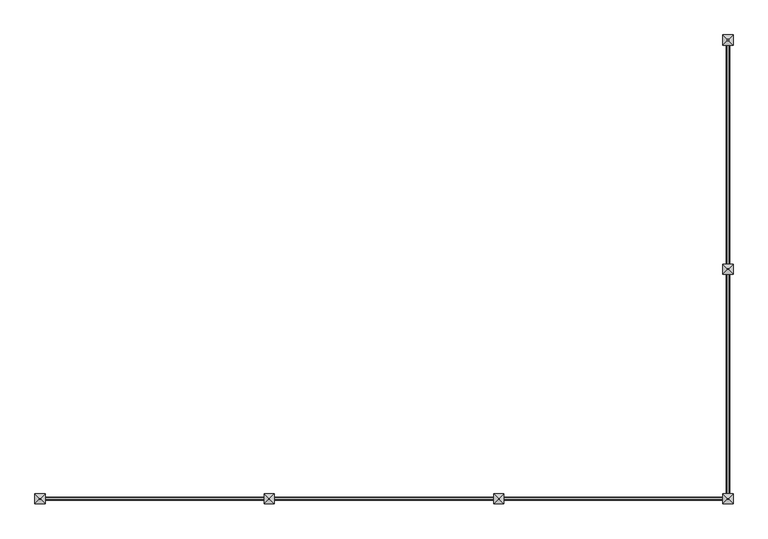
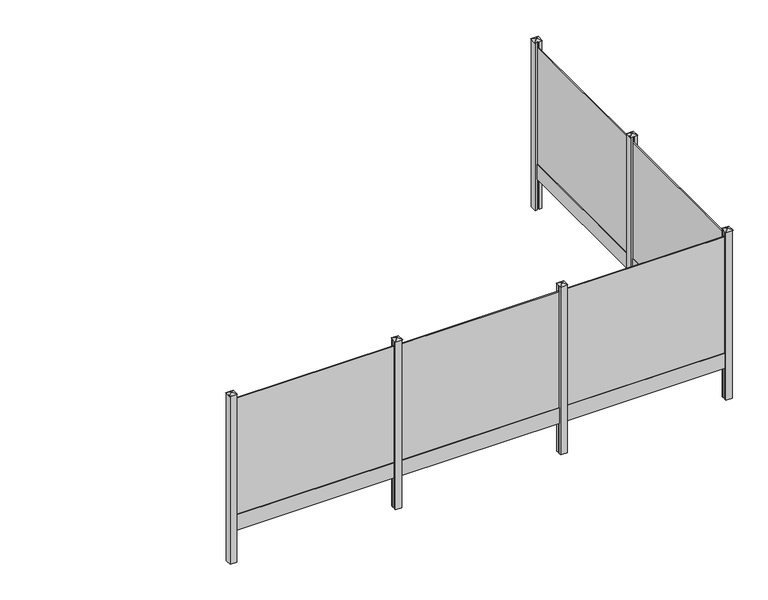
"""IFC4 building model written with IfcOpenShell, lengths in millimetres: railing geometry, Mehat - Railing - Plaque de Soubassement - Ardoise pour clôture rigide - 251x25x3.5 cm."""

from ifc_helpers import new_model, si_unit, frame, origin, origin_with_axes, place, context, project, spatial, polyline, outline, extrude, faceted_brep, source, transform, mapped, element, save


def railing_7dd5a5e9(model_context):
    return source(origin(), model_context, "Body", "SolidModel", [
        extrude(outline(polyline([(-14163.7483484, -20957.4943936), (-14180.7483484, -20957.4943936), (-14180.7483484, -18447.4943936), (-14163.7483484, -18447.4943936), (-14163.7483484, -20957.4943936)])), frame((0.0, 0.0, 250.0), z_axis=(0.0, 0.0, 1.0), x_axis=(1.0, 0.0, 0.0)), (0.0, 0.0, 1.0), 1900.0),
        extrude(outline(polyline([(-14154.7483484, -20957.4943936), (-14189.7483484, -20957.4943936), (-14189.7483484, -18447.4943936), (-14154.7483484, -18447.4943936), (-14154.7483484, -20957.4943936)])), origin_with_axes(), (0.0, 0.0, 1.0), 250.0),
        extrude(outline(polyline([(-14122.2483484, -21032.4943936), (-14154.7483484, -21032.4943936), (-14154.7483484, -21007.4943936), (-14189.7483484, -21007.4943936), (-14189.7483484, -21032.4943936), (-14222.2483484, -21032.4943936), (-14222.2483484, -20932.4943936), (-14189.7483484, -20932.4943936), (-14189.7483484, -20957.4943936), (-14154.7483484, -20957.4943936), (-14154.7483484, -20932.4943936), (-14122.2483484, -20932.4943936), (-14122.2483484, -21032.4943936)])), frame((0.0, 0.0, -500.0), z_axis=(0.0, 0.0, 1.0), x_axis=(1.0, 0.0, 0.0)), (0.0, 0.0, 1.0), 2750.0),
        faceted_brep([(-14178.6528945, -20976.1443936, 2275.4), (-14178.6528945, -20988.8443936, 2275.4), (-14165.9528945, -20988.8443936, 2275.4), (-14165.9528945, -20976.1443936, 2275.4), (-14228.5983484, -20926.1443936, 2250.0), (-14115.8983484, -20926.1443936, 2250.0), (-14115.8983484, -21038.8443936, 2250.0), (-14228.5983484, -21038.8443936, 2250.0)], [[[0, 1, 2, 3]], [[4, 5, 6, 7]], [[4, 0, 3, 5]], [[5, 3, 2, 6]], [[6, 2, 1, 7]], [[7, 1, 0, 4]]]),
        extrude(outline(polyline([(-14163.7483484, -23517.4943936), (-14180.7483484, -23517.4943936), (-14180.7483484, -21007.4943936), (-14163.7483484, -21007.4943936), (-14163.7483484, -23517.4943936)])), frame((0.0, 0.0, 250.0), z_axis=(0.0, 0.0, 1.0), x_axis=(1.0, 0.0, 0.0)), (0.0, 0.0, 1.0), 1900.0),
        extrude(outline(polyline([(-14154.7483484, -23517.4943936), (-14189.7483484, -23517.4943936), (-14189.7483484, -21007.4943936), (-14154.7483484, -21007.4943936), (-14154.7483484, -23517.4943936)])), origin_with_axes(), (0.0, 0.0, 1.0), 250.0),
        extrude(outline(polyline([(-16707.2483484, -23550.9943936), (-16707.2483484, -23533.9943936), (-14197.2483484, -23533.9943936), (-14197.2483484, -23550.9943936), (-16707.2483484, -23550.9943936)])), frame((0.0, 0.0, 250.0), z_axis=(0.0, 0.0, 1.0), x_axis=(1.0, 0.0, 0.0)), (0.0, 0.0, 1.0), 1900.0),
        extrude(outline(polyline([(-16707.2483484, -23559.9943936), (-16707.2483484, -23524.9943936), (-14197.2483484, -23524.9943936), (-14197.2483484, -23559.9943936), (-16707.2483484, -23559.9943936)])), origin_with_axes(), (0.0, 0.0, 1.0), 250.0),
        extrude(outline(polyline([(-16782.2483484, -23592.4943936), (-16782.2483484, -23559.9943936), (-16757.2483484, -23559.9943936), (-16757.2483484, -23524.9943936), (-16782.2483484, -23524.9943936), (-16782.2483484, -23492.4943936), (-16682.2483484, -23492.4943936), (-16682.2483484, -23524.9943936), (-16707.2483484, -23524.9943936), (-16707.2483484, -23559.9943936), (-16682.2483484, -23559.9943936), (-16682.2483484, -23592.4943936), (-16782.2483484, -23592.4943936)])), frame((0.0, 0.0, -500.0), z_axis=(0.0, 0.0, 1.0), x_axis=(1.0, 0.0, 0.0)), (0.0, 0.0, 1.0), 2750.0),
        faceted_brep([(-16725.8983484, -23536.0898475, 2275.4), (-16738.5983484, -23536.0898475, 2275.4), (-16738.5983484, -23548.7898475, 2275.4), (-16725.8983484, -23548.7898475, 2275.4), (-16675.8983484, -23486.1443936, 2250.0), (-16675.8983484, -23598.8443936, 2250.0), (-16788.5983484, -23598.8443936, 2250.0), (-16788.5983484, -23486.1443936, 2250.0)], [[[0, 1, 2, 3]], [[4, 5, 6, 7]], [[4, 0, 3, 5]], [[5, 3, 2, 6]], [[6, 2, 1, 7]], [[7, 1, 0, 4]]]),
        extrude(outline(polyline([(-19267.2483484, -23550.9943936), (-19267.2483484, -23533.9943936), (-16757.2483484, -23533.9943936), (-16757.2483484, -23550.9943936), (-19267.2483484, -23550.9943936)])), frame((0.0, 0.0, 250.0), z_axis=(0.0, 0.0, 1.0), x_axis=(1.0, 0.0, 0.0)), (0.0, 0.0, 1.0), 1900.0),
        extrude(outline(polyline([(-19267.2483484, -23559.9943936), (-19267.2483484, -23524.9943936), (-16757.2483484, -23524.9943936), (-16757.2483484, -23559.9943936), (-19267.2483484, -23559.9943936)])), origin_with_axes(), (0.0, 0.0, 1.0), 250.0),
        extrude(outline(polyline([(-19342.2483484, -23592.4943936), (-19342.2483484, -23559.9943936), (-19317.2483484, -23559.9943936), (-19317.2483484, -23524.9943936), (-19342.2483484, -23524.9943936), (-19342.2483484, -23492.4943936), (-19242.2483484, -23492.4943936), (-19242.2483484, -23524.9943936), (-19267.2483484, -23524.9943936), (-19267.2483484, -23559.9943936), (-19242.2483484, -23559.9943936), (-19242.2483484, -23592.4943936), (-19342.2483484, -23592.4943936)])), frame((0.0, 0.0, -500.0), z_axis=(0.0, 0.0, 1.0), x_axis=(1.0, 0.0, 0.0)), (0.0, 0.0, 1.0), 2750.0),
        faceted_brep([(-19285.8983484, -23536.0898475, 2275.4), (-19298.5983484, -23536.0898475, 2275.4), (-19298.5983484, -23548.7898475, 2275.4), (-19285.8983484, -23548.7898475, 2275.4), (-19235.8983484, -23486.1443936, 2250.0), (-19235.8983484, -23598.8443936, 2250.0), (-19348.5983484, -23598.8443936, 2250.0), (-19348.5983484, -23486.1443936, 2250.0)], [[[0, 1, 2, 3]], [[4, 5, 6, 7]], [[4, 0, 3, 5]], [[5, 3, 2, 6]], [[6, 2, 1, 7]], [[7, 1, 0, 4]]]),
        extrude(outline(polyline([(-21827.2483484, -23550.9943936), (-21827.2483484, -23533.9943936), (-19317.2483484, -23533.9943936), (-19317.2483484, -23550.9943936), (-21827.2483484, -23550.9943936)])), frame((0.0, 0.0, 250.0), z_axis=(0.0, 0.0, 1.0), x_axis=(1.0, 0.0, 0.0)), (0.0, 0.0, 1.0), 1900.0),
        extrude(outline(polyline([(-21827.2483484, -23559.9943936), (-21827.2483484, -23524.9943936), (-19317.2483484, -23524.9943936), (-19317.2483484, -23559.9943936), (-21827.2483484, -23559.9943936)])), origin_with_axes(), (0.0, 0.0, 1.0), 250.0),
        extrude(outline(polyline([(-14222.2483484, -23592.4943936), (-14222.2483484, -23559.9943936), (-14197.2483484, -23559.9943936), (-14197.2483484, -23524.9943936), (-14222.2483484, -23524.9943936), (-14222.2483484, -23492.4943936), (-14189.7483484, -23492.4943936), (-14189.7483484, -23517.4943936), (-14154.7483484, -23517.4943936), (-14154.7483484, -23492.4943936), (-14122.2483484, -23492.4943936), (-14122.2483484, -23592.4943936), (-14222.2483484, -23592.4943936)])), frame((0.0, 0.0, -500.0), z_axis=(0.0, 0.0, 1.0), x_axis=(1.0, 0.0, 0.0)), (0.0, 0.0, 1.0), 2750.0),
        faceted_brep([(-14165.8983484, -23536.0898475, 2275.4), (-14178.5983484, -23536.0898475, 2275.4), (-14178.5983484, -23548.7898475, 2275.4), (-14165.8983484, -23548.7898475, 2275.4), (-14115.8983484, -23486.1443936, 2250.0), (-14115.8983484, -23598.8443936, 2250.0), (-14228.5983484, -23598.8443936, 2250.0), (-14228.5983484, -23486.1443936, 2250.0)], [[[0, 1, 2, 3]], [[4, 5, 6, 7]], [[4, 0, 3, 5]], [[5, 3, 2, 6]], [[6, 2, 1, 7]], [[7, 1, 0, 4]]]),
        extrude(outline(polyline([(-14122.2483484, -18472.4943936), (-14154.7483484, -18472.4943936), (-14154.7483484, -18447.4943936), (-14189.7483484, -18447.4943936), (-14189.7483484, -18472.4943936), (-14222.2483484, -18472.4943936), (-14222.2483484, -18372.4943936), (-14122.2483484, -18372.4943936), (-14122.2483484, -18472.4943936)])), frame((0.0, 0.0, -500.0), z_axis=(0.0, 0.0, 1.0), x_axis=(1.0, 0.0, 0.0)), (0.0, 0.0, 1.0), 2750.0),
        faceted_brep([(-14178.6528945, -18416.1443936, 2275.4), (-14178.6528945, -18428.8443936, 2275.4), (-14165.9528945, -18428.8443936, 2275.4), (-14165.9528945, -18416.1443936, 2275.4), (-14228.5983484, -18366.1443936, 2250.0), (-14115.8983484, -18366.1443936, 2250.0), (-14115.8983484, -18478.8443936, 2250.0), (-14228.5983484, -18478.8443936, 2250.0)], [[[0, 1, 2, 3]], [[4, 5, 6, 7]], [[4, 0, 3, 5]], [[5, 3, 2, 6]], [[6, 2, 1, 7]], [[7, 1, 0, 4]]]),
        extrude(outline(polyline([(-21902.2483484, -23592.4943936), (-21902.2483484, -23492.4943936), (-21802.2483484, -23492.4943936), (-21802.2483484, -23524.9943936), (-21827.2483484, -23524.9943936), (-21827.2483484, -23559.9943936), (-21802.2483484, -23559.9943936), (-21802.2483484, -23592.4943936), (-21902.2483484, -23592.4943936)])), frame((0.0, 0.0, -500.0), z_axis=(0.0, 0.0, 1.0), x_axis=(1.0, 0.0, 0.0)), (0.0, 0.0, 1.0), 2750.0),
        faceted_brep([(-21845.8983484, -23536.0898475, 2275.4), (-21858.5983484, -23536.0898475, 2275.4), (-21858.5983484, -23548.7898475, 2275.4), (-21845.8983484, -23548.7898475, 2275.4), (-21795.8983484, -23486.1443936, 2250.0), (-21795.8983484, -23598.8443936, 2250.0), (-21908.5983484, -23598.8443936, 2250.0), (-21908.5983484, -23486.1443936, 2250.0)], [[[0, 1, 2, 3]], [[4, 5, 6, 7]], [[4, 0, 3, 5]], [[5, 3, 2, 6]], [[6, 2, 1, 7]], [[7, 1, 0, 4]]]),
    ])


if __name__ == "__main__":
    model = new_model("IFC4")
    model_context = context("Model", 3, world=origin())
    ifc_project = project(units=[si_unit("LENGTHUNIT", "METRE", prefix="MILLI")], contexts=[model_context])
    site = spatial("IfcSite", under=ifc_project)
    building = spatial("IfcBuilding", under=site)
    placement = place(None, origin())
    railing_shape = railing_7dd5a5e9(model_context)
    element("IfcRailing", 1, ObjectType="Mehat - Railing - Plaque de Soubassement - Ardoise pour clôture rigide - 251x25x3.5 cm", at=placement, inside=building, context=model_context, shape_type="MappedRepresentation", body=[
        mapped(railing_shape, transform((0.0, 0.0, 0.0), x_axis=(1.0, 0.0, 0.0), y_axis=(0.0, 1.0, 0.0), z_axis=(0.0, 0.0, 1.0))),
    ])
    save(model, "model.ifc")
